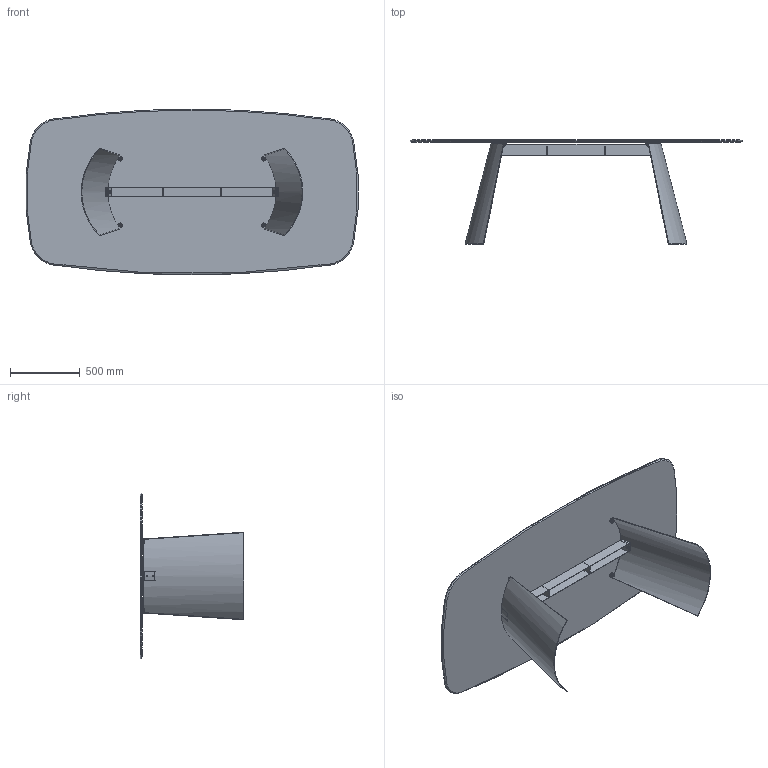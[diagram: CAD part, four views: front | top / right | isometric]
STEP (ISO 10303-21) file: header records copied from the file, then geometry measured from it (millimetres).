
FILE_DESCRIPTION (( 'STEP AP203' ), '1' );
FILE_NAME ('DN42C.STEP', '2024-08-07T15:09:27', ( '' ), ( '' ), 'SwSTEP 2.0', 'SolidWorks 2022', '' );
FILE_SCHEMA (( 'CONFIG_CONTROL_DESIGN' ));
Length unit declared in the file: millimetre
Products named in the file (14): DN42C; DNBX00000-01-DORIAN TRAVERSO LXXXX PER TAVOLO LX00_L.1250; SDNB300000-02-GAMBA X TRASP; DNB300000_01-02-GAMBA DORIAN; rondella M8_8X16; nut_M8_M8; 434070-00-PIEDINO TPV GOMMA NERO D. 30x8max18; DNB300000_02-02-RISCONTRO STANGONE CENTRALE; DNB300000_03-02-PIASTRINA; K4XCMXX-00-Piani Sagomati in ceramica_2390 x 1190; rondella M8X24; feltro Ø12x3; GRANO M8X35_barra; DNB400000-02-ASSIEME STRUTTURA COMPLETA_L.1250
Assembly tree (37 placements, depth 4):
  DN42C
    K4XCMXX-00-Piani Sagomati in ceramica_2390 x 1190
    DNB400000-02-ASSIEME STRUTTURA COMPLETA_L.1250
      SDNB300000-02-GAMBA X TRASP  x2
        DNB300000_01-02-GAMBA DORIAN
        DNB300000_02-02-RISCONTRO STANGONE CENTRALE
        DNB300000_03-02-PIASTRINA
      DNBX00000-01-DORIAN TRAVERSO LXXXX PER TAVOLO LX00_L.1250
    434070-00-PIEDINO TPV GOMMA NERO D. 30x8max18  x4
    nut_M8_M8  x8
    rondella M8X24  x4
    GRANO M8X35_barra  x4
    rondella M8_8X16  x4
    feltro Ø12x3  x4
Bounding box: 2382.15 x 746 x 1190 mm (x, y, z)
Volume: 47509153.4 mm3; surface area: 13107009.1 mm2
Topology: 47 solids, 47 shells, 603 faces, 1391 edges, 882 vertices
Faces by surface type: plane 250, cylinder 166, cone 89, torus 80, bspline 18
Entity records: 10728 total; most frequent: CARTESIAN_POINT 2095, DIRECTION 1404, ORIENTED_EDGE 1314, EDGE_CURVE 657, AXIS2_PLACEMENT_3D 507, VERTEX_POINT 426, LINE 390, VECTOR 390
